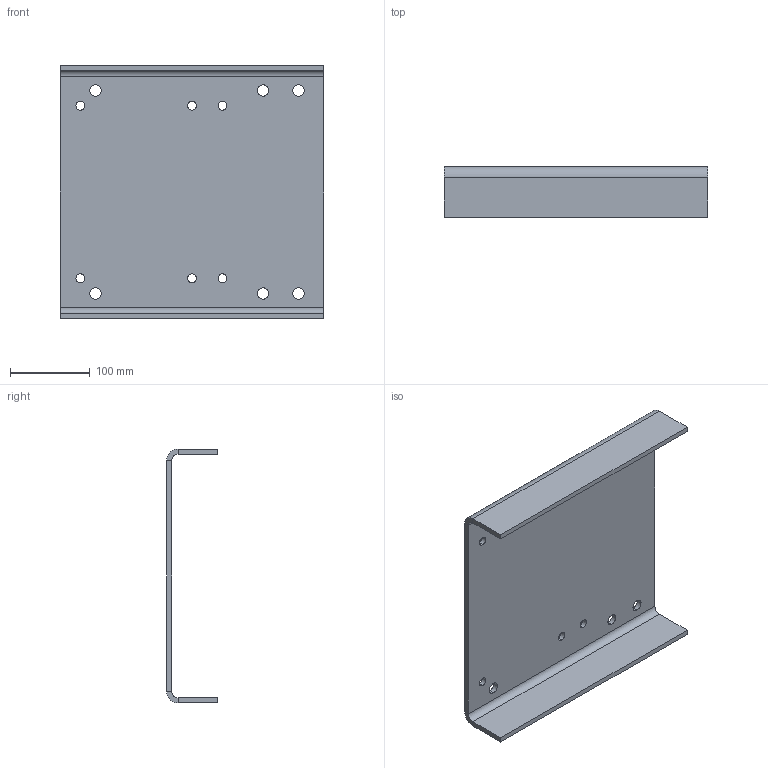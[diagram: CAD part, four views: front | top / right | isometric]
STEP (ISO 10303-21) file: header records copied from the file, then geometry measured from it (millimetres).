
FILE_DESCRIPTION (( 'STEP AP203' ), '1' );
FILE_NAME ('MBP-213_256.STEP', '2009-07-23T15:18:37', ( 'Chris McCoy' ), ( 'Magnaloy Coupling Co' ), 'SwSTEP 2.0', 'SolidWorks 2009', '' );
FILE_SCHEMA (( 'CONFIG_CONTROL_DESIGN' ));
Length unit declared in the file: inch
Products named in the file (1): MBP-213_256
Bounding box: 330.2 x 63.5 x 317.5 mm (x, y, z)
Volume: 875599.8 mm3; surface area: 288372.9 mm2
Topology: 1 solids, 1 shells, 46 faces, 116 edges, 72 vertices
Faces by surface type: cylinder 28, plane 18
Entity records: 1515 total; most frequent: DIRECTION 266, CARTESIAN_POINT 235, ORIENTED_EDGE 232, EDGE_CURVE 116, AXIS2_PLACEMENT_3D 103, VERTEX_POINT 72, EDGE_LOOP 70, VECTOR 60
